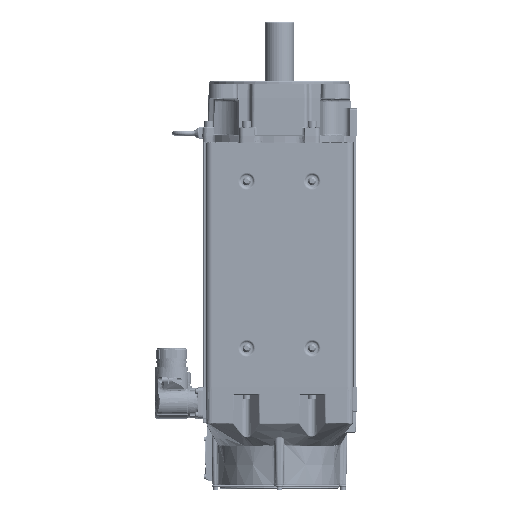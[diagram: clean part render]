
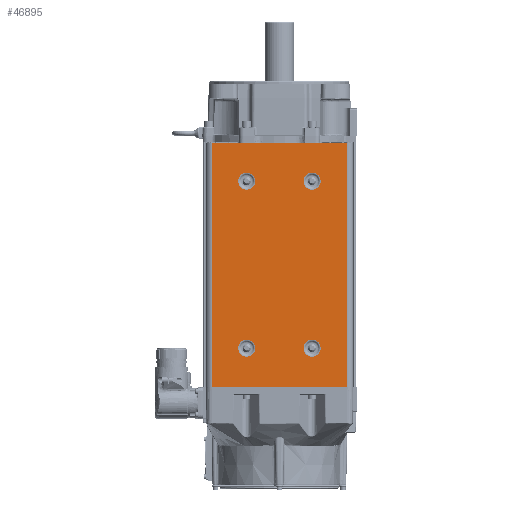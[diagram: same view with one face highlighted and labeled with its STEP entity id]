
A CAD part, left-side view. The second image highlights one B-rep face of the part: STEP entity #46895.
In plain terms, the highlighted planar face has unit normal (-1, 0, 0).
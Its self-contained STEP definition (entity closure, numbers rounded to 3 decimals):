
#45659=DIRECTION('',(0.,0.,-1.));
#45660=VECTOR('',#45659,313.5);
#45661=CARTESIAN_POINT('',(0.,-86.25,156.75));
#45662=LINE('',#45661,#45660);
#45753=DIRECTION('',(0.,1.,0.));
#45754=VECTOR('',#45753,172.5);
#45755=CARTESIAN_POINT('',(0.,-86.25,156.75));
#45756=LINE('',#45755,#45754);
#45765=DIRECTION('',(0.,0.,-1.));
#45766=VECTOR('',#45765,313.5);
#45767=CARTESIAN_POINT('',(0.,86.25,156.75));
#45768=LINE('',#45767,#45766);
#45769=CARTESIAN_POINT('',(0.,-42.,107.25));
#45770=DIRECTION('',(-1.,0.,0.));
#45771=DIRECTION('',(0.,0.,1.));
#45772=AXIS2_PLACEMENT_3D('',#45769,#45770,#45771);
#45774=CARTESIAN_POINT('',(0.,-42.,107.25));
#45775=DIRECTION('',(-1.,0.,0.));
#45776=DIRECTION('',(0.,0.,-1.));
#45777=AXIS2_PLACEMENT_3D('',#45774,#45775,#45776);
#45779=CARTESIAN_POINT('',(0.,-42.,-107.25));
#45780=DIRECTION('',(-1.,0.,0.));
#45781=DIRECTION('',(0.,0.,1.));
#45782=AXIS2_PLACEMENT_3D('',#45779,#45780,#45781);
#45784=CARTESIAN_POINT('',(0.,-42.,-107.25));
#45785=DIRECTION('',(-1.,0.,0.));
#45786=DIRECTION('',(0.,0.,-1.));
#45787=AXIS2_PLACEMENT_3D('',#45784,#45785,#45786);
#45789=CARTESIAN_POINT('',(0.,42.,107.25));
#45790=DIRECTION('',(-1.,0.,0.));
#45791=DIRECTION('',(0.,0.,1.));
#45792=AXIS2_PLACEMENT_3D('',#45789,#45790,#45791);
#45794=CARTESIAN_POINT('',(0.,42.,107.25));
#45795=DIRECTION('',(-1.,0.,0.));
#45796=DIRECTION('',(0.,0.,-1.));
#45797=AXIS2_PLACEMENT_3D('',#45794,#45795,#45796);
#45799=CARTESIAN_POINT('',(0.,42.,-107.25));
#45800=DIRECTION('',(-1.,0.,0.));
#45801=DIRECTION('',(0.,0.,1.));
#45802=AXIS2_PLACEMENT_3D('',#45799,#45800,#45801);
#45804=CARTESIAN_POINT('',(0.,42.,-107.25));
#45805=DIRECTION('',(-1.,0.,0.));
#45806=DIRECTION('',(0.,0.,-1.));
#45807=AXIS2_PLACEMENT_3D('',#45804,#45805,#45806);
#45809=DIRECTION('',(0.,1.,0.));
#45810=VECTOR('',#45809,172.5);
#45811=CARTESIAN_POINT('',(0.,-86.25,-156.75));
#45812=LINE('',#45811,#45810);
#46473=CARTESIAN_POINT('',(0.,-86.25,156.75));
#46474=CARTESIAN_POINT('',(0.,86.25,156.75));
#46475=VERTEX_POINT('',#46473);
#46476=VERTEX_POINT('',#46474);
#46485=CARTESIAN_POINT('',(0.,-86.25,-156.75));
#46486=CARTESIAN_POINT('',(0.,86.25,-156.75));
#46487=VERTEX_POINT('',#46485);
#46488=VERTEX_POINT('',#46486);
#46529=CARTESIAN_POINT('',(0.,-42.,118.235));
#46530=CARTESIAN_POINT('',(0.,-42.,96.265));
#46531=VERTEX_POINT('',#46529);
#46532=VERTEX_POINT('',#46530);
#46569=CARTESIAN_POINT('',(0.,-42.,-96.265));
#46570=CARTESIAN_POINT('',(0.,-42.,-118.235));
#46571=VERTEX_POINT('',#46569);
#46572=VERTEX_POINT('',#46570);
#46609=CARTESIAN_POINT('',(0.,42.,118.235));
#46610=CARTESIAN_POINT('',(0.,42.,96.265));
#46611=VERTEX_POINT('',#46609);
#46612=VERTEX_POINT('',#46610);
#46649=CARTESIAN_POINT('',(0.,42.,-96.265));
#46650=CARTESIAN_POINT('',(0.,42.,-118.235));
#46651=VERTEX_POINT('',#46649);
#46652=VERTEX_POINT('',#46650);
#46858=CARTESIAN_POINT('',(0.,86.25,156.75));
#46859=DIRECTION('',(-1.,0.,0.));
#46860=DIRECTION('',(0.,-1.,0.));
#46861=AXIS2_PLACEMENT_3D('',#46858,#46859,#46860);
#46862=PLANE('',#46861);
#46863=ORIENTED_EDGE('',*,*,#46849,.F.);
#46864=ORIENTED_EDGE('',*,*,#46732,.T.);
#46866=ORIENTED_EDGE('',*,*,#46865,.T.);
#46868=ORIENTED_EDGE('',*,*,#46867,.F.);
#46869=EDGE_LOOP('',(#46863,#46864,#46866,#46868));
#46870=FACE_OUTER_BOUND('',#46869,.F.);
#46872=ORIENTED_EDGE('',*,*,#46871,.T.);
#46874=ORIENTED_EDGE('',*,*,#46873,.T.);
#46875=EDGE_LOOP('',(#46872,#46874));
#46876=FACE_BOUND('',#46875,.F.);
#46878=ORIENTED_EDGE('',*,*,#46877,.T.);
#46880=ORIENTED_EDGE('',*,*,#46879,.T.);
#46881=EDGE_LOOP('',(#46878,#46880));
#46882=FACE_BOUND('',#46881,.F.);
#46884=ORIENTED_EDGE('',*,*,#46883,.T.);
#46886=ORIENTED_EDGE('',*,*,#46885,.T.);
#46887=EDGE_LOOP('',(#46884,#46886));
#46888=FACE_BOUND('',#46887,.F.);
#46890=ORIENTED_EDGE('',*,*,#46889,.T.);
#46892=ORIENTED_EDGE('',*,*,#46891,.T.);
#46893=EDGE_LOOP('',(#46890,#46892));
#46894=FACE_BOUND('',#46893,.F.);
#46895=ADVANCED_FACE('',(#46870,#46876,#46882,#46888,#46894),#46862,.T.);
#45773=CIRCLE('',#45772,10.985);
#45778=CIRCLE('',#45777,10.985);
#45783=CIRCLE('',#45782,10.985);
#45788=CIRCLE('',#45787,10.985);
#45793=CIRCLE('',#45792,10.985);
#45798=CIRCLE('',#45797,10.985);
#45803=CIRCLE('',#45802,10.985);
#45808=CIRCLE('',#45807,10.985);
#46732=EDGE_CURVE('',#46475,#46487,#45662,.T.);
#46849=EDGE_CURVE('',#46475,#46476,#45756,.T.);
#46865=EDGE_CURVE('',#46487,#46488,#45812,.T.);
#46867=EDGE_CURVE('',#46476,#46488,#45768,.T.);
#46871=EDGE_CURVE('',#46531,#46532,#45773,.T.);
#46873=EDGE_CURVE('',#46532,#46531,#45778,.T.);
#46877=EDGE_CURVE('',#46571,#46572,#45783,.T.);
#46879=EDGE_CURVE('',#46572,#46571,#45788,.T.);
#46883=EDGE_CURVE('',#46611,#46612,#45793,.T.);
#46885=EDGE_CURVE('',#46612,#46611,#45798,.T.);
#46889=EDGE_CURVE('',#46651,#46652,#45803,.T.);
#46891=EDGE_CURVE('',#46652,#46651,#45808,.T.);
